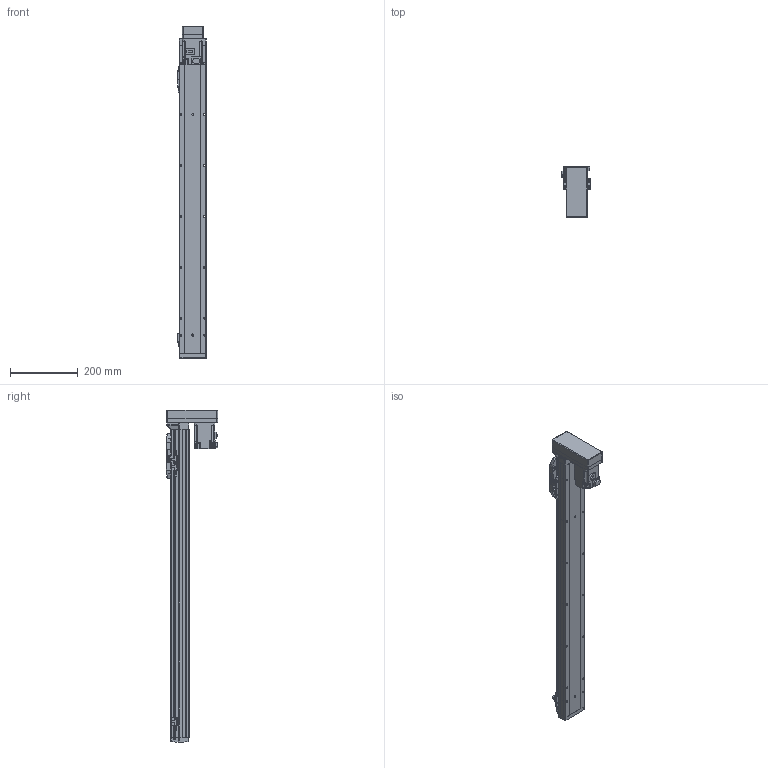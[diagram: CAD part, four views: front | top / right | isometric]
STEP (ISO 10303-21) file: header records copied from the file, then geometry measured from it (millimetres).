
FILE_DESCRIPTION (( 'STEP AP214' ), '1' );
FILE_NAME ('GSH8-750-BM-M20-1.step', '2025-01-07T06:09:06', ( '' ), ( '' ), 'SwSTEP 2.0', 'SolidWorks 2012', '' );
FILE_SCHEMA (( 'AUTOMOTIVE_DESIGN' ));
Length unit declared in the file: millimetre
Products named in the file (5): GSH8-750-BM-M20-1; HG-KR23_200W_Motor; GSH8-GY-004; GSH8-BL-008; GSH8-BL-011-750-M20
Assembly tree (4 placements, depth 2):
  GSH8-750-BM-M20-1
    GSH8-BL-011-750-M20
    GSH8-GY-004
    GSH8-BL-008
    HG-KR23_200W_Motor
Bounding box: 84 x 152.3 x 978.2 mm (x, y, z)
Volume: 2305023.6 mm3; surface area: 587879.3 mm2
Topology: 4 solids, 8 shells, 1148 faces, 3017 edges, 1942 vertices
Faces by surface type: plane 648, cylinder 404, torus 42, cone 26, bspline 24, sphere 4
Entity records: 44823 total; most frequent: CARTESIAN_POINT 10056, DIRECTION 6125, ORIENTED_EDGE 6018, EDGE_CURVE 3009, AXIS2_PLACEMENT_3D 2063, LINE 1999, VECTOR 1999, VERTEX_POINT 1938
